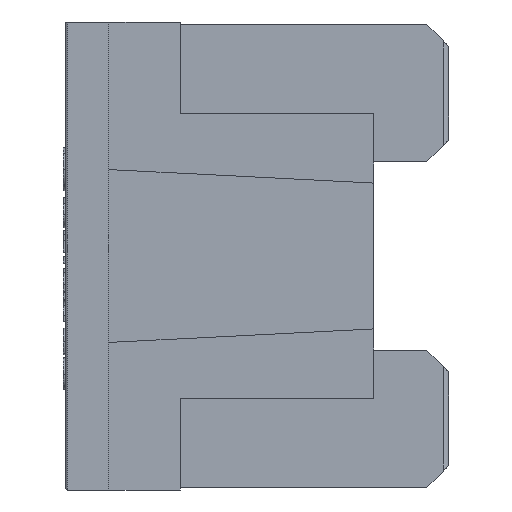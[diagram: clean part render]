
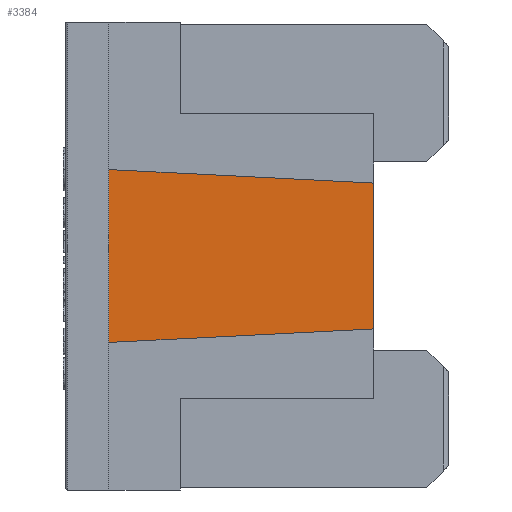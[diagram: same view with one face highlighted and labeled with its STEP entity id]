
A CAD part, left-side view. The second image highlights one B-rep face of the part: STEP entity #3384.
In plain terms, the highlighted planar face has unit normal (-1, 0, 0).
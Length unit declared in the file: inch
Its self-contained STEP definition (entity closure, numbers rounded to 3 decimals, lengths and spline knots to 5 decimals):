
#260=FACE_OUTER_BOUND('',#446,.T.);
#446=EDGE_LOOP('',(#2215,#2216,#2217,#2218));
#645=LINE('',#4374,#1003);
#647=LINE('',#4378,#1005);
#648=LINE('',#4380,#1006);
#649=LINE('',#4381,#1007);
#1003=VECTOR('',#3734,0.3937);
#1005=VECTOR('',#3738,0.3937);
#1006=VECTOR('',#3739,0.3937);
#1007=VECTOR('',#3740,0.3937);
#1361=VERTEX_POINT('',#4371);
#1362=VERTEX_POINT('',#4373);
#1363=VERTEX_POINT('',#4377);
#1364=VERTEX_POINT('',#4379);
#1701=EDGE_CURVE('',#1362,#1361,#645,.T.);
#1703=EDGE_CURVE('',#1363,#1361,#647,.T.);
#1704=EDGE_CURVE('',#1363,#1364,#648,.T.);
#1705=EDGE_CURVE('',#1364,#1362,#649,.T.);
#2215=ORIENTED_EDGE('',*,*,#1701,.T.);
#2216=ORIENTED_EDGE('',*,*,#1703,.F.);
#2217=ORIENTED_EDGE('',*,*,#1704,.T.);
#2218=ORIENTED_EDGE('',*,*,#1705,.T.);
#3236=PLANE('',#3590);
#3384=ADVANCED_FACE('',(#260),#3236,.T.);
#3590=AXIS2_PLACEMENT_3D('',#4376,#3736,#3737);
#3734=DIRECTION('',(0.,0.999,0.051));
#3736=DIRECTION('center_axis',(-1.,0.,0.));
#3737=DIRECTION('ref_axis',(0.,-1.,0.));
#3738=DIRECTION('',(0.,0.,1.));
#3739=DIRECTION('',(0.,-0.999,0.051));
#3740=DIRECTION('',(0.,0.,1.));
#4371=CARTESIAN_POINT('',(-0.07283,-0.04,0.08));
#4373=CARTESIAN_POINT('',(-0.07283,-0.285,0.0675));
#4374=CARTESIAN_POINT('',(-0.07283,-0.17005,0.07337));
#4376=CARTESIAN_POINT('Origin',(-0.07283,-0.04,-0.21654));
#4377=CARTESIAN_POINT('',(-0.07283,-0.04,-0.08));
#4378=CARTESIAN_POINT('',(-0.07283,-0.04,-0.10827));
#4379=CARTESIAN_POINT('',(-0.07283,-0.285,-0.0675));
#4380=CARTESIAN_POINT('',(-0.07283,-0.15903,-0.07393));
#4381=CARTESIAN_POINT('',(-0.07283,-0.285,-0.21654));
